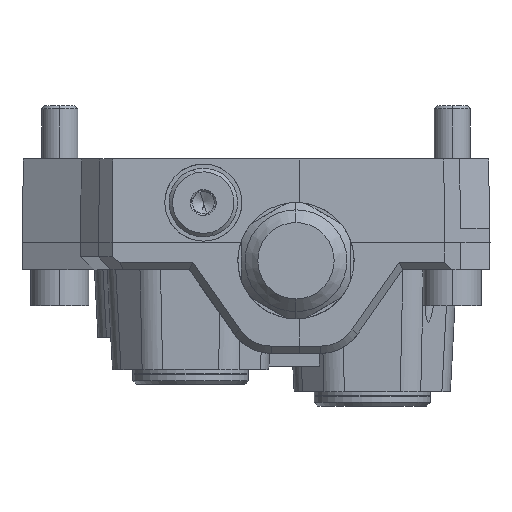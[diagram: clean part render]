
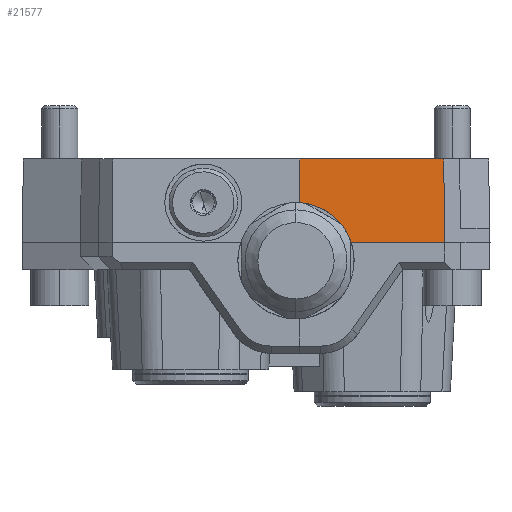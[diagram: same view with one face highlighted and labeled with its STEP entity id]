
A CAD part, left-side view. The second image highlights one B-rep face of the part: STEP entity #21577.
In plain terms, the highlighted planar face has unit normal (-1, -0.017, 0.018).
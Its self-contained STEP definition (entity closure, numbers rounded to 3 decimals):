
#957 = VECTOR ( 'NONE', #10602, 1000. ) ;
#2004 = DIRECTION ( 'NONE',  ( 0.017, 0., 1. ) ) ;
#2456 = CARTESIAN_POINT ( 'NONE',  ( -68.302, -39.691, 23.271 ) ) ;
#2672 = LINE ( 'NONE', #33520, #7108 ) ;
#4719 = EDGE_LOOP ( 'NONE', ( #6689, #31522, #9478, #10203, #21318 ) ) ;
#6689 = ORIENTED_EDGE ( 'NONE', *, *, #13007, .F. ) ;
#7108 = VECTOR ( 'NONE', #2004, 1000. ) ;
#7351 = VERTEX_POINT ( 'NONE', #24034 ) ;
#7398 = DIRECTION ( 'NONE',  ( 0.017, 0., 1. ) ) ;
#7673 = CARTESIAN_POINT ( 'NONE',  ( -68.979, -1.204, 23. ) ) ;
#7696 = VERTEX_POINT ( 'NONE', #17811 ) ;
#8230 = LINE ( 'NONE', #2456, #957 ) ;
#9478 = ORIENTED_EDGE ( 'NONE', *, *, #29576, .T. ) ;
#10113 = CARTESIAN_POINT ( 'NONE',  ( -69.154, -14.199, 0. ) ) ;
#10203 = ORIENTED_EDGE ( 'NONE', *, *, #18439, .T. ) ;
#10602 = DIRECTION ( 'NONE',  ( 0.017, 0.007, 1. ) ) ;
#12719 = CARTESIAN_POINT ( 'NONE',  ( -69.079, -12.088, 6.416 ) ) ;
#13007 = EDGE_CURVE ( 'NONE', #7351, #28035, #27811, .T. ) ;
#14301 = VERTEX_POINT ( 'NONE', #15054 ) ;
#15054 = CARTESIAN_POINT ( 'NONE',  ( -68.706, -39.862, 0. ) ) ;
#15136 = LINE ( 'NONE', #7673, #26571 ) ;
#15476 = EDGE_CURVE ( 'NONE', #28035, #7696, #2672, .T. ) ;
#17389 = AXIS2_PLACEMENT_3D ( 'NONE', #17563, #23065, #7398 ) ;
#17563 = CARTESIAN_POINT ( 'NONE',  ( -68.979, -1.204, 23. ) ) ;
#17811 = CARTESIAN_POINT ( 'NONE',  ( -69., 0., 23. ) ) ;
#18439 = EDGE_CURVE ( 'NONE', #26512, #7696, #15136, .T. ) ;
#20163 = CARTESIAN_POINT ( 'NONE',  ( -69.21, -0.001, 10.969 ) ) ;
#21318 = ORIENTED_EDGE ( 'NONE', *, *, #15476, .F. ) ;
#21577 = ADVANCED_FACE ( 'NONE', ( #24164 ), #33273, .T. ) ;
#22482 = LINE ( 'NONE', #28988, #27794 ) ;
#23016 = DIRECTION ( 'NONE',  ( -0.017, 1., 0. ) ) ;
#23065 = DIRECTION ( 'NONE',  ( -1., -0.017, 0.017 ) ) ;
#24034 = CARTESIAN_POINT ( 'NONE',  ( -69.154, -14.199, 0. ) ) ;
#24164 = FACE_OUTER_BOUND ( 'NONE', #4719, .T. ) ;
#25622 = CARTESIAN_POINT ( 'NONE',  ( -69.1, -6.742, 10.546 ) ) ;
#26512 = VERTEX_POINT ( 'NONE', #29550 ) ;
#26571 = VECTOR ( 'NONE', #23016, 1000. ) ;
#27794 = VECTOR ( 'NONE', #31637, 1000. ) ;
#27811 =( BOUNDED_CURVE ( )  B_SPLINE_CURVE ( 3, ( #10113, #12719, #25622, #33675 ),
 .UNSPECIFIED., .F., .F. ) 
 B_SPLINE_CURVE_WITH_KNOTS ( ( 4, 4 ),
 ( 2.674, 3.864 ),
 .UNSPECIFIED. ) 
 CURVE ( )  GEOMETRIC_REPRESENTATION_ITEM ( )  RATIONAL_B_SPLINE_CURVE ( ( 1., 0.885, 0.885, 1. ) ) 
 REPRESENTATION_ITEM ( '' )  );
#28035 = VERTEX_POINT ( 'NONE', #20163 ) ;
#28988 = CARTESIAN_POINT ( 'NONE',  ( -69.38, -1.211, 0. ) ) ;
#29550 = CARTESIAN_POINT ( 'NONE',  ( -68.307, -39.693, 23. ) ) ;
#29576 = EDGE_CURVE ( 'NONE', #14301, #26512, #8230, .T. ) ;
#31522 = ORIENTED_EDGE ( 'NONE', *, *, #32382, .F. ) ;
#31637 = DIRECTION ( 'NONE',  ( -0.017, 1., 0. ) ) ;
#32382 = EDGE_CURVE ( 'NONE', #14301, #7351, #22482, .T. ) ;
#33273 = PLANE ( 'NONE',  #17389 ) ;
#33520 = CARTESIAN_POINT ( 'NONE',  ( -69., 0., 23. ) ) ;
#33675 = CARTESIAN_POINT ( 'NONE',  ( -69.21, -0.001, 10.969 ) ) ;
